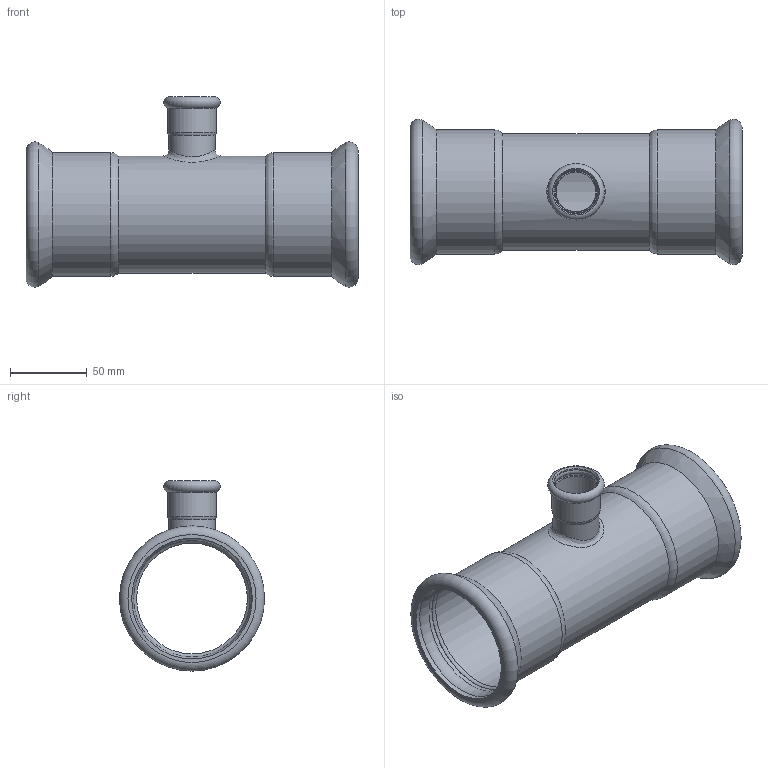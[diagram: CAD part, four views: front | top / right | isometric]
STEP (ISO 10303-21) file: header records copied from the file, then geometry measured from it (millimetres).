
FILE_DESCRIPTION(/* description */ ('TEE RIDOTTO 76,1-28-76,1'),/* implementation_level */ '2;1');
FILE_NAME(/* name */ 'T:\A_ARTICOLI\ARTICOLI PRODOTTI_WEB\Articoli_STEELPRES_WEB\Temporary Step\392076028_Steelpres.ipt.step',/* time_stamp */ '2016-01-19T16:43:01+01:00',/* author */ ('Ghirlinghelli Diego'),/* organization */ (''),/* preprocessor_version */ 'ST-DEVELOPER v15.2',/* originating_system */ 'Autodesk Inventor 2014',/* authorisation */ 'R.M. S.p.A. si riserva a termini di legge la proprietà del presente disegno con divieto di riprodurlo o comunicarlo a terzi senza sua autorizzazione scritta');
FILE_SCHEMA (('AUTOMOTIVE_DESIGN { 1 0 10303 214 3 1 1 }'));
Length unit declared in the file: millimetre
Products named in the file (1): 392076028_Steelpres
Bounding box: 216 x 94.49 x 123.8 mm (x, y, z)
Volume: 150515.9 mm3; surface area: 116682 mm2
Topology: 1 solids, 1 shells, 42 faces, 98 edges, 59 vertices
Faces by surface type: cylinder 17, torus 15, bspline 4, cone 3, plane 3
Full cylindrical faces by diameter (mm): 26 x1, 27 x1, 28.4 x1, 28.8 x2, 30 x1, 31.4 x1, 72.1 x1, 76.1 x1, 76.7 x2, 78.5 x4, 80.7 x2
Entity records: 1298 total; most frequent: CARTESIAN_POINT 523, DIRECTION 168, ORIENTED_EDGE 102, AXIS2_PLACEMENT_3D 84, EDGE_LOOP 82, EDGE_CURVE 51, VERTEX_POINT 47, CIRCLE 45
